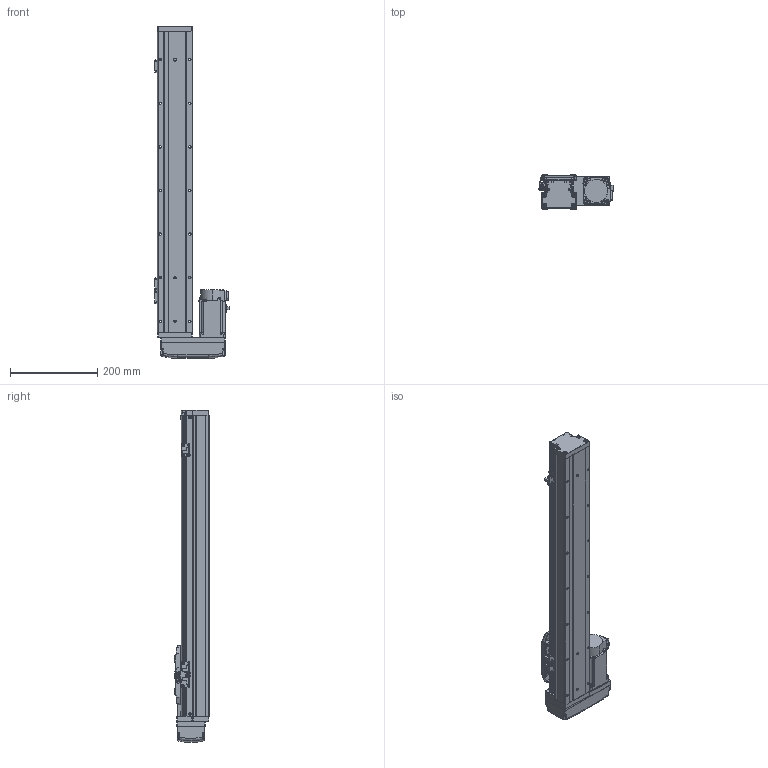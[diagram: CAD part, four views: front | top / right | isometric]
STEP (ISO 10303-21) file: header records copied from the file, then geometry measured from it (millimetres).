
FILE_DESCRIPTION (( 'STEP AP203' ), '1' );
FILE_NAME ('GTH8-500-BR-M20-C4.step', '2022-09-23T01:10:34', ( '微软用户' ), ( '微软中国' ), 'SwSTEP 2.0', 'SolidWorks 2020', '' );
FILE_SCHEMA (( 'CONFIG_CONTROL_DESIGN' ));
Length unit declared in the file: millimetre
Products named in the file (18): GTH80-003; GBT 70.1-M4×16; CTHA86-015-1_CTHA86-015-2; GTH80-004; GTH80-028; CTHA86-033_M40B; GTH80-006; GTH50-024; GTH8-500-BR-M20-C4; GTH80-013; GTH50-023; GBT 70.3-M3℅6; GBT96.1-2002 3×0.8; GTH80-022; BTH-M3X5X6; GTH80-001_500; GBT 70.1-M3℅6; hg-kn43j_-s100_
Assembly tree (57 placements, depth 2):
  GTH8-500-BR-M20-C4
    GTH80-001_500
    GTH80-003
    GTH80-004
    GTH80-006
    GTH80-013
    GBT 70.3-M3℅6  x4
    GTH80-022
    GBT 70.1-M3℅6  x14
    GBT 70.1-M4×16  x8
    GTH80-028  x2
    GTH50-024  x3
    GTH50-023  x3
    GBT96.1-2002 3×0.8  x6
    BTH-M3X5X6  x8
    hg-kn43j_-s100_
    CTHA86-015-1_CTHA86-015-2
    CTHA86-033_M40B
Bounding box: 169.7 x 78 x 761 mm (x, y, z)
Volume: 3978255.8 mm3; surface area: 429577.9 mm2
Topology: 59 solids, 59 shells, 2236 faces, 5163 edges, 3163 vertices
Faces by surface type: plane 1187, cylinder 607, cone 260, torus 166, bspline 8, sphere 8
Entity records: 40774 total; most frequent: CARTESIAN_POINT 7169, DIRECTION 6621, ORIENTED_EDGE 6144, EDGE_CURVE 3072, AXIS2_PLACEMENT_3D 2313, LINE 1995, VECTOR 1995, VERTEX_POINT 1938
